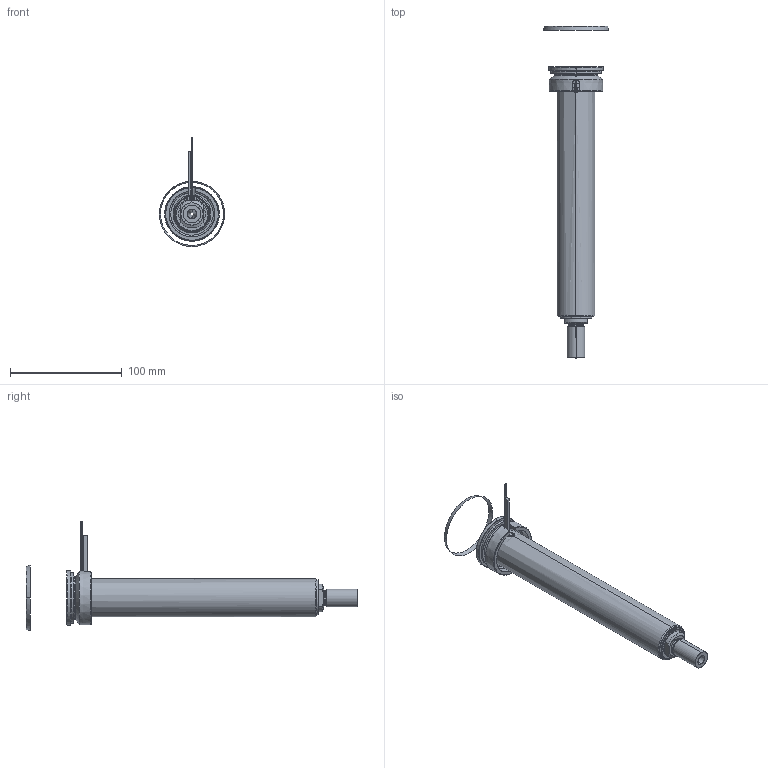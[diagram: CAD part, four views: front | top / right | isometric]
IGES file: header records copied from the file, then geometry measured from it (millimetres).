
Start section: SolidWorks IGES file using analytic representation for surfaces
Global section: file name: C:\Documents and Settings\ws-20\Desktop\TEMPORANEA\UGBE5005-S-A-P-5 [Ød-2.5 P-25 ØC-13].IGS; native system: SolidWorks 2012; preprocessor: SolidWorks 2012; author: ws-20; date: 120306.163108; units: millimetre
Bounding box: 58.57 x 297.44 x 97.91 mm (x, y, z)
Surface area: 90566.5 mm2 (no closed solid volume)
Topology: 0 solids, 0 shells, 109 faces, 2096 edges, 2096 vertices
Faces by surface type: revolution 68, bspline 41
